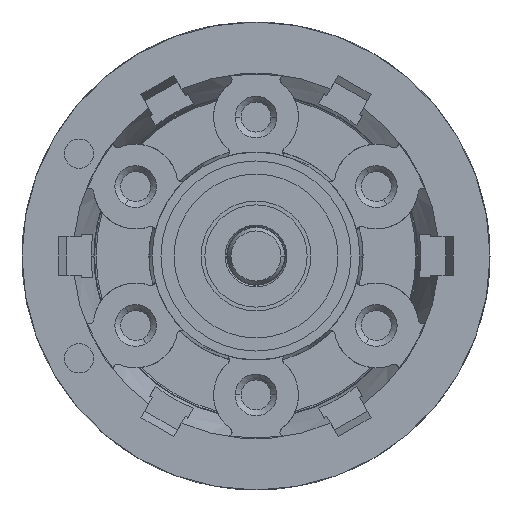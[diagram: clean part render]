
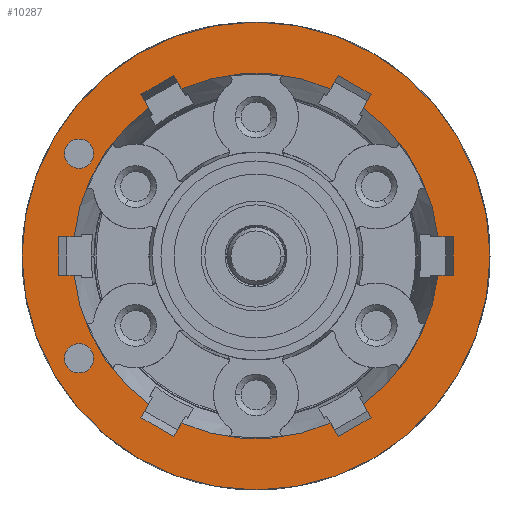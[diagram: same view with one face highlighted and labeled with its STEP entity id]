
A CAD part, left-side view. The second image highlights one B-rep face of the part: STEP entity #10287.
In plain terms, the highlighted planar face has unit normal (-1, 0, 0).
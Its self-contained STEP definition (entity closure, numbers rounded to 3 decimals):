
#71=CARTESIAN_POINT('',(-1.9,0.,0.));
#72=DIRECTION('',(-1.,0.,0.));
#73=DIRECTION('',(0.,1.,0.));
#74=AXIS2_PLACEMENT_3D('',#71,#72,#73);
#80=CARTESIAN_POINT('',(-1.9,0.,0.));
#81=DIRECTION('',(1.,0.,0.));
#82=DIRECTION('',(0.,1.,0.));
#83=AXIS2_PLACEMENT_3D('',#80,#81,#82);
#88=DIRECTION('',(0.,-0.866,0.5));
#89=VECTOR('',#88,2.6);
#90=CARTESIAN_POINT('',(-1.9,7.876,11.041));
#91=LINE('',#90,#89);
#95=DIRECTION('',(0.,-0.5,-0.866));
#96=VECTOR('',#95,1.068);
#97=CARTESIAN_POINT('',(-1.9,7.876,11.041));
#98=LINE('',#97,#96);
#102=CARTESIAN_POINT('',(-1.9,0.,0.));
#103=DIRECTION('',(1.,0.,0.));
#104=DIRECTION('',(0.,0.995,0.104));
#105=AXIS2_PLACEMENT_3D('',#102,#103,#104);
#110=DIRECTION('',(0.,1.,0.));
#111=VECTOR('',#110,1.068);
#112=CARTESIAN_POINT('',(-1.9,12.432,1.3));
#113=LINE('',#112,#111);
#117=DIRECTION('',(0.,0.,1.));
#118=VECTOR('',#117,2.6);
#119=CARTESIAN_POINT('',(-1.9,13.5,-1.3));
#120=LINE('',#119,#118);
#124=DIRECTION('',(0.,-1.,0.));
#125=VECTOR('',#124,1.068);
#126=CARTESIAN_POINT('',(-1.9,13.5,-1.3));
#127=LINE('',#126,#125);
#131=CARTESIAN_POINT('',(-1.9,0.,0.));
#132=DIRECTION('',(1.,0.,0.));
#133=DIRECTION('',(0.,0.587,-0.809));
#134=AXIS2_PLACEMENT_3D('',#131,#132,#133);
#139=DIRECTION('',(0.,0.5,-0.866));
#140=VECTOR('',#139,1.068);
#141=CARTESIAN_POINT('',(-1.9,7.342,-10.117));
#142=LINE('',#141,#140);
#146=DIRECTION('',(0.,0.866,0.5));
#147=VECTOR('',#146,2.6);
#148=CARTESIAN_POINT('',(-1.9,5.624,-12.341));
#149=LINE('',#148,#147);
#153=DIRECTION('',(0.,-0.5,0.866));
#154=VECTOR('',#153,1.068);
#155=CARTESIAN_POINT('',(-1.9,5.624,-12.341));
#156=LINE('',#155,#154);
#160=CARTESIAN_POINT('',(-1.9,0.,0.));
#161=DIRECTION('',(1.,0.,0.));
#162=DIRECTION('',(0.,-0.407,-0.913));
#163=AXIS2_PLACEMENT_3D('',#160,#161,#162);
#168=DIRECTION('',(0.,-0.5,-0.866));
#169=VECTOR('',#168,1.068);
#170=CARTESIAN_POINT('',(-1.9,-5.09,-11.417));
#171=LINE('',#170,#169);
#175=DIRECTION('',(0.,0.866,-0.5));
#176=VECTOR('',#175,2.6);
#177=CARTESIAN_POINT('',(-1.9,-7.876,-11.041));
#178=LINE('',#177,#176);
#182=DIRECTION('',(0.,0.5,0.866));
#183=VECTOR('',#182,1.068);
#184=CARTESIAN_POINT('',(-1.9,-7.876,-11.041));
#185=LINE('',#184,#183);
#189=CARTESIAN_POINT('',(-1.9,0.,0.));
#190=DIRECTION('',(1.,0.,0.));
#191=DIRECTION('',(0.,-0.995,-0.104));
#192=AXIS2_PLACEMENT_3D('',#189,#190,#191);
#197=DIRECTION('',(0.,-1.,0.));
#198=VECTOR('',#197,1.068);
#199=CARTESIAN_POINT('',(-1.9,-12.432,-1.3));
#200=LINE('',#199,#198);
#204=DIRECTION('',(0.,0.,-1.));
#205=VECTOR('',#204,2.6);
#206=CARTESIAN_POINT('',(-1.9,-13.5,1.3));
#207=LINE('',#206,#205);
#211=DIRECTION('',(0.,1.,0.));
#212=VECTOR('',#211,1.068);
#213=CARTESIAN_POINT('',(-1.9,-13.5,1.3));
#214=LINE('',#213,#212);
#218=CARTESIAN_POINT('',(-1.9,0.,0.));
#219=DIRECTION('',(1.,0.,0.));
#220=DIRECTION('',(0.,-0.587,0.809));
#221=AXIS2_PLACEMENT_3D('',#218,#219,#220);
#226=DIRECTION('',(0.,-0.5,0.866));
#227=VECTOR('',#226,1.068);
#228=CARTESIAN_POINT('',(-1.9,-7.342,10.117));
#229=LINE('',#228,#227);
#233=DIRECTION('',(0.,-0.866,-0.5));
#234=VECTOR('',#233,2.6);
#235=CARTESIAN_POINT('',(-1.9,-5.624,12.341));
#236=LINE('',#235,#234);
#240=DIRECTION('',(0.,0.5,-0.866));
#241=VECTOR('',#240,1.068);
#242=CARTESIAN_POINT('',(-1.9,-5.624,12.341));
#243=LINE('',#242,#241);
#247=CARTESIAN_POINT('',(-1.9,0.,0.));
#248=DIRECTION('',(1.,0.,0.));
#249=DIRECTION('',(0.,0.407,0.913));
#250=AXIS2_PLACEMENT_3D('',#247,#248,#249);
#255=DIRECTION('',(0.,0.5,0.866));
#256=VECTOR('',#255,1.068);
#257=CARTESIAN_POINT('',(-1.9,5.09,11.417));
#258=LINE('',#257,#256);
#262=CARTESIAN_POINT('',(-1.9,12.1,-7.));
#263=DIRECTION('',(1.,0.,0.));
#264=DIRECTION('',(0.,1.,0.));
#265=AXIS2_PLACEMENT_3D('',#262,#263,#264);
#270=CARTESIAN_POINT('',(-1.9,12.1,-7.));
#271=DIRECTION('',(1.,0.,0.));
#272=DIRECTION('',(0.,-1.,0.));
#273=AXIS2_PLACEMENT_3D('',#270,#271,#272);
#278=CARTESIAN_POINT('',(-1.9,12.1,7.));
#279=DIRECTION('',(-1.,0.,0.));
#280=DIRECTION('',(0.,1.,0.));
#281=AXIS2_PLACEMENT_3D('',#278,#279,#280);
#286=CARTESIAN_POINT('',(-1.9,12.1,7.));
#287=DIRECTION('',(-1.,0.,0.));
#288=DIRECTION('',(0.,-1.,0.));
#289=AXIS2_PLACEMENT_3D('',#286,#287,#288);
#8916=CARTESIAN_POINT('',(-1.9,16.,0.));
#8917=CARTESIAN_POINT('',(-1.9,-16.,0.));
#8918=VERTEX_POINT('',#8916);
#8919=VERTEX_POINT('',#8917);
#8947=CARTESIAN_POINT('',(-1.9,13.5,-1.3));
#8948=CARTESIAN_POINT('',(-1.9,13.5,1.3));
#8949=VERTEX_POINT('',#8947);
#8950=VERTEX_POINT('',#8948);
#8951=CARTESIAN_POINT('',(-1.9,12.432,-1.3));
#8952=VERTEX_POINT('',#8951);
#8953=CARTESIAN_POINT('',(-1.9,12.432,1.3));
#8954=VERTEX_POINT('',#8953);
#8977=CARTESIAN_POINT('',(-1.9,5.624,-12.341));
#8979=VERTEX_POINT('',#8977);
#8981=CARTESIAN_POINT('',(-1.9,7.876,-11.041));
#8983=VERTEX_POINT('',#8981);
#9001=CARTESIAN_POINT('',(-1.9,-7.876,-11.041));
#9003=VERTEX_POINT('',#9001);
#9005=CARTESIAN_POINT('',(-1.9,-5.624,-12.341));
#9007=VERTEX_POINT('',#9005);
#9025=CARTESIAN_POINT('',(-1.9,-13.5,1.3));
#9027=VERTEX_POINT('',#9025);
#9029=CARTESIAN_POINT('',(-1.9,-13.5,-1.3));
#9031=VERTEX_POINT('',#9029);
#9049=CARTESIAN_POINT('',(-1.9,-5.624,12.341));
#9051=VERTEX_POINT('',#9049);
#9053=CARTESIAN_POINT('',(-1.9,-7.876,11.041));
#9055=VERTEX_POINT('',#9053);
#9073=CARTESIAN_POINT('',(-1.9,7.876,11.041));
#9075=VERTEX_POINT('',#9073);
#9077=CARTESIAN_POINT('',(-1.9,5.624,12.341));
#9079=VERTEX_POINT('',#9077);
#9081=CARTESIAN_POINT('',(-1.9,5.09,-11.417));
#9082=VERTEX_POINT('',#9081);
#9083=CARTESIAN_POINT('',(-1.9,7.342,-10.117));
#9084=VERTEX_POINT('',#9083);
#9087=CARTESIAN_POINT('',(-1.9,-7.342,-10.117));
#9088=VERTEX_POINT('',#9087);
#9089=CARTESIAN_POINT('',(-1.9,-5.09,-11.417));
#9090=VERTEX_POINT('',#9089);
#9099=CARTESIAN_POINT('',(-1.9,-12.432,1.3));
#9100=VERTEX_POINT('',#9099);
#9101=CARTESIAN_POINT('',(-1.9,-12.432,-1.3));
#9102=VERTEX_POINT('',#9101);
#9105=CARTESIAN_POINT('',(-1.9,-5.09,11.417));
#9106=VERTEX_POINT('',#9105);
#9107=CARTESIAN_POINT('',(-1.9,-7.342,10.117));
#9108=VERTEX_POINT('',#9107);
#9111=CARTESIAN_POINT('',(-1.9,7.342,10.117));
#9112=VERTEX_POINT('',#9111);
#9113=CARTESIAN_POINT('',(-1.9,5.09,11.417));
#9114=VERTEX_POINT('',#9113);
#9383=CARTESIAN_POINT('',(-1.9,13.1,-7.));
#9384=CARTESIAN_POINT('',(-1.9,11.1,-7.));
#9385=VERTEX_POINT('',#9383);
#9386=VERTEX_POINT('',#9384);
#9391=CARTESIAN_POINT('',(-1.9,13.1,7.));
#9392=VERTEX_POINT('',#9391);
#9393=CARTESIAN_POINT('',(-1.9,11.1,7.));
#9394=VERTEX_POINT('',#9393);
#10214=CARTESIAN_POINT('',(-1.9,0.,0.));
#10215=DIRECTION('',(1.,0.,0.));
#10216=DIRECTION('',(0.,-1.,0.));
#10217=AXIS2_PLACEMENT_3D('',#10214,#10215,#10216);
#10218=PLANE('',#10217);
#10220=ORIENTED_EDGE('',*,*,#10219,.F.);
#10222=ORIENTED_EDGE('',*,*,#10221,.T.);
#10223=EDGE_LOOP('',(#10220,#10222));
#10224=FACE_OUTER_BOUND('',#10223,.F.);
#10226=ORIENTED_EDGE('',*,*,#10225,.F.);
#10228=ORIENTED_EDGE('',*,*,#10227,.T.);
#10230=ORIENTED_EDGE('',*,*,#10229,.F.);
#10232=ORIENTED_EDGE('',*,*,#10231,.T.);
#10234=ORIENTED_EDGE('',*,*,#10233,.F.);
#10236=ORIENTED_EDGE('',*,*,#10235,.T.);
#10238=ORIENTED_EDGE('',*,*,#10237,.F.);
#10240=ORIENTED_EDGE('',*,*,#10239,.T.);
#10242=ORIENTED_EDGE('',*,*,#10241,.F.);
#10244=ORIENTED_EDGE('',*,*,#10243,.T.);
#10246=ORIENTED_EDGE('',*,*,#10245,.F.);
#10248=ORIENTED_EDGE('',*,*,#10247,.T.);
#10250=ORIENTED_EDGE('',*,*,#10249,.F.);
#10252=ORIENTED_EDGE('',*,*,#10251,.T.);
#10254=ORIENTED_EDGE('',*,*,#10253,.F.);
#10256=ORIENTED_EDGE('',*,*,#10255,.T.);
#10258=ORIENTED_EDGE('',*,*,#10257,.F.);
#10260=ORIENTED_EDGE('',*,*,#10259,.T.);
#10262=ORIENTED_EDGE('',*,*,#10261,.F.);
#10264=ORIENTED_EDGE('',*,*,#10263,.T.);
#10266=ORIENTED_EDGE('',*,*,#10265,.F.);
#10268=ORIENTED_EDGE('',*,*,#10267,.T.);
#10270=ORIENTED_EDGE('',*,*,#10269,.F.);
#10272=ORIENTED_EDGE('',*,*,#10271,.T.);
#10273=EDGE_LOOP('',(#10226,#10228,#10230,#10232,#10234,#10236,#10238,#10240,
#10242,#10244,#10246,#10248,#10250,#10252,#10254,#10256,#10258,#10260,#10262,
#10264,#10266,#10268,#10270,#10272));
#10274=FACE_BOUND('',#10273,.F.);
#10276=ORIENTED_EDGE('',*,*,#10275,.F.);
#10278=ORIENTED_EDGE('',*,*,#10277,.F.);
#10279=EDGE_LOOP('',(#10276,#10278));
#10280=FACE_BOUND('',#10279,.F.);
#10282=ORIENTED_EDGE('',*,*,#10281,.T.);
#10284=ORIENTED_EDGE('',*,*,#10283,.T.);
#10285=EDGE_LOOP('',(#10282,#10284));
#10286=FACE_BOUND('',#10285,.F.);
#10287=ADVANCED_FACE('',(#10224,#10274,#10280,#10286),#10218,.F.);
#75=CIRCLE('',#74,16.);
#84=CIRCLE('',#83,16.);
#106=CIRCLE('',#105,12.5);
#135=CIRCLE('',#134,12.5);
#164=CIRCLE('',#163,12.5);
#193=CIRCLE('',#192,12.5);
#222=CIRCLE('',#221,12.5);
#251=CIRCLE('',#250,12.5);
#266=CIRCLE('',#265,1.);
#274=CIRCLE('',#273,1.);
#282=CIRCLE('',#281,1.);
#290=CIRCLE('',#289,1.);
#10219=EDGE_CURVE('',#8918,#8919,#75,.T.);
#10221=EDGE_CURVE('',#8918,#8919,#84,.T.);
#10225=EDGE_CURVE('',#9075,#9079,#91,.T.);
#10227=EDGE_CURVE('',#9075,#9112,#98,.T.);
#10229=EDGE_CURVE('',#8954,#9112,#106,.T.);
#10231=EDGE_CURVE('',#8954,#8950,#113,.T.);
#10233=EDGE_CURVE('',#8949,#8950,#120,.T.);
#10235=EDGE_CURVE('',#8949,#8952,#127,.T.);
#10237=EDGE_CURVE('',#9084,#8952,#135,.T.);
#10239=EDGE_CURVE('',#9084,#8983,#142,.T.);
#10241=EDGE_CURVE('',#8979,#8983,#149,.T.);
#10243=EDGE_CURVE('',#8979,#9082,#156,.T.);
#10245=EDGE_CURVE('',#9090,#9082,#164,.T.);
#10247=EDGE_CURVE('',#9090,#9007,#171,.T.);
#10249=EDGE_CURVE('',#9003,#9007,#178,.T.);
#10251=EDGE_CURVE('',#9003,#9088,#185,.T.);
#10253=EDGE_CURVE('',#9102,#9088,#193,.T.);
#10255=EDGE_CURVE('',#9102,#9031,#200,.T.);
#10257=EDGE_CURVE('',#9027,#9031,#207,.T.);
#10259=EDGE_CURVE('',#9027,#9100,#214,.T.);
#10261=EDGE_CURVE('',#9108,#9100,#222,.T.);
#10263=EDGE_CURVE('',#9108,#9055,#229,.T.);
#10265=EDGE_CURVE('',#9051,#9055,#236,.T.);
#10267=EDGE_CURVE('',#9051,#9106,#243,.T.);
#10269=EDGE_CURVE('',#9114,#9106,#251,.T.);
#10271=EDGE_CURVE('',#9114,#9079,#258,.T.);
#10275=EDGE_CURVE('',#9385,#9386,#266,.T.);
#10277=EDGE_CURVE('',#9386,#9385,#274,.T.);
#10281=EDGE_CURVE('',#9392,#9394,#282,.T.);
#10283=EDGE_CURVE('',#9394,#9392,#290,.T.);
